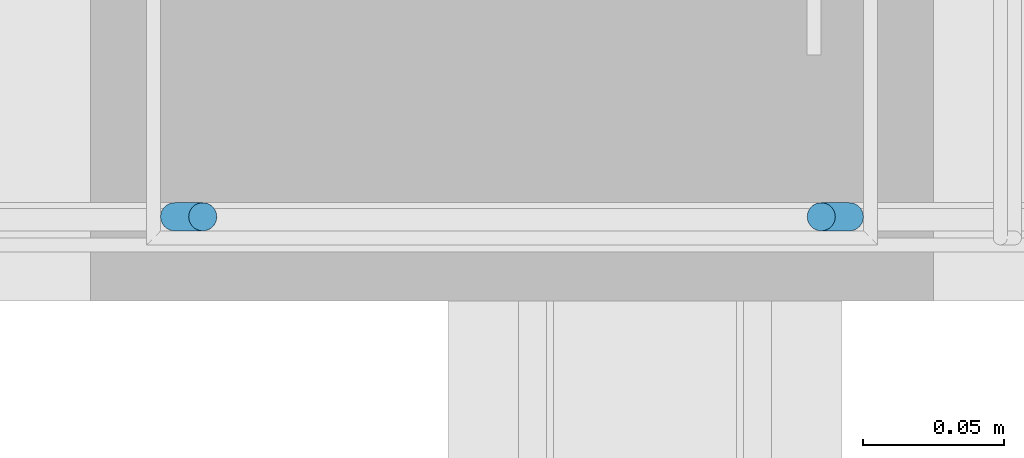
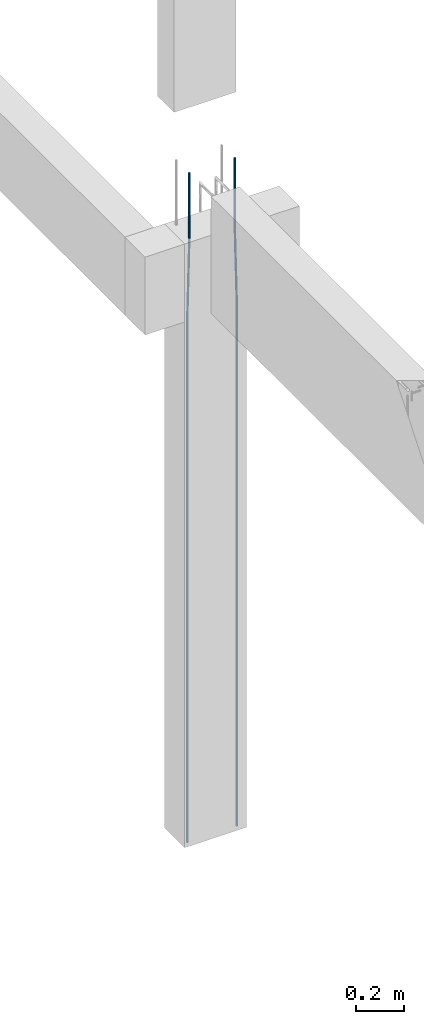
# One storey, part 88 of 236: 2 reinforcing bars.
"""IFC4 building model written with IfcOpenShell, lengths in centimetres."""

from ifc_helpers import new_model, entity, si_unit, derived_unit, frame, origin_with_axes, place, context, project, spatial, element, save


model = new_model("IFC4")

# Units and contexts
model_context = context("Model", 3, precision=1e-05, world=origin_with_axes(), identifier="Body")
ifc_project = project(units=[si_unit("LENGTHUNIT", "METRE", prefix="CENTI"), si_unit("VOLUMEUNIT", "CUBIC_METRE"), si_unit("AREAUNIT", "SQUARE_METRE"), si_unit("POWERUNIT", "WATT"), si_unit("LUMINOUSFLUXUNIT", "LUMEN"), si_unit("ELECTRICCURRENTUNIT", "AMPERE"), si_unit("PRESSUREUNIT", "PASCAL", prefix="KILO"), si_unit("MASSUNIT", "GRAM", prefix="KILO"), si_unit("PLANEANGLEUNIT", "RADIAN"), derived_unit("VOLUMETRICFLOWRATEUNIT", [(si_unit("LENGTHUNIT", "METRE"), 3), (si_unit("TIMEUNIT", "SECOND"), -1)])], contexts=[model_context])

# Site, building, storey
site_placement = place(None, frame((-4000.0, 0.0, 0.0), z_axis=(0.0, 0.0, 1.0), x_axis=(1.0, 0.0, 0.0)))
site = spatial("IfcSite", under=ifc_project, at=site_placement, Name="PADRÃO")
building_placement = place(site_placement, frame((0.0, 0.0, -14.0)))
building = spatial("IfcBuilding", under=site, at=building_placement, Name="CRECHE PRÉ-ESCOLA TIPO 2")
placement_1 = place(building_placement, origin_with_axes())
placement_2 = place(placement_1, frame((0.0, 0.0, 30.0), z_axis=(0.0, 0.0, 1.0), x_axis=(1.0, 0.0, 0.0)))
storey_placement = place(placement_2, frame((0.0, 0.0, 310.0), z_axis=(0.0, 0.0, 1.0), x_axis=(1.0, 0.0, 0.0)))
storey = spatial("IfcBuildingStorey", under=building, at=storey_placement, Name="TERREO", CompositionType="ELEMENT", Elevation=326.0)

# Reinforcing bars
reinforcing_bar_1_placement = place(storey_placement, frame((2260.26, 3194.52, 33.3573001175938), z_axis=(0.0, 0.0, 1.0), x_axis=(1.0, 0.0, 0.0)))
element("IfcReinforcingBar", 1, at=reinforcing_bar_1_placement, inside=storey, Name="P52 - Longitudinal", BarLength=0.0, CrossSectionArea=7.853981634e-05, NominalDiameter=1.0, PredefinedType="MAIN", context=model_context, shape_type="AdvancedSweptSolid", body=[
    entity("IfcSweptDiskSolid", entity("IfcCompositeCurve", [entity("IfcCompositeCurveSegment", "CONTINUOUS", True, entity("IfcPolyline", [entity("IfcCartesianPoint", [0.5, 0.0, -343.357300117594]), entity("IfcCartesianPoint", [0.5, 0.0, -73.3573001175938])])), entity("IfcCompositeCurveSegment", "CONTINUOUS", True, entity("IfcPolyline", [entity("IfcCartesianPoint", [0.5, 0.0, -73.3573001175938]), entity("IfcCartesianPoint", [-0.5, 0.0, -33.3573001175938])])), entity("IfcCompositeCurveSegment", "CONTINUOUS", True, entity("IfcPolyline", [entity("IfcCartesianPoint", [-0.5, 0.0, -33.3573001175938]), entity("IfcCartesianPoint", [-0.5, 0.0, 0.0])]))], False), 0.5),
])
reinforcing_bar_2_placement = place(storey_placement, frame((2237.26, 3194.52, 33.3573001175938), z_axis=(0.0, 0.0, 1.0), x_axis=(1.0, 0.0, 0.0)))
element("IfcReinforcingBar", 2, at=reinforcing_bar_2_placement, inside=storey, Name="P52 - Longitudinal", BarLength=0.0, CrossSectionArea=7.853981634e-05, NominalDiameter=1.0, PredefinedType="MAIN", context=model_context, shape_type="AdvancedSweptSolid", body=[
    entity("IfcSweptDiskSolid", entity("IfcCompositeCurve", [entity("IfcCompositeCurveSegment", "CONTINUOUS", True, entity("IfcPolyline", [entity("IfcCartesianPoint", [-0.5, 0.0, -343.357300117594]), entity("IfcCartesianPoint", [-0.5, 0.0, -73.3573001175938])])), entity("IfcCompositeCurveSegment", "CONTINUOUS", True, entity("IfcPolyline", [entity("IfcCartesianPoint", [-0.5, 0.0, -73.3573001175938]), entity("IfcCartesianPoint", [0.5, 0.0, -33.3573001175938])])), entity("IfcCompositeCurveSegment", "CONTINUOUS", True, entity("IfcPolyline", [entity("IfcCartesianPoint", [0.5, 0.0, -33.3573001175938]), entity("IfcCartesianPoint", [0.5, 0.0, 0.0])]))], False), 0.5),
])

save(model, "model.ifc")
